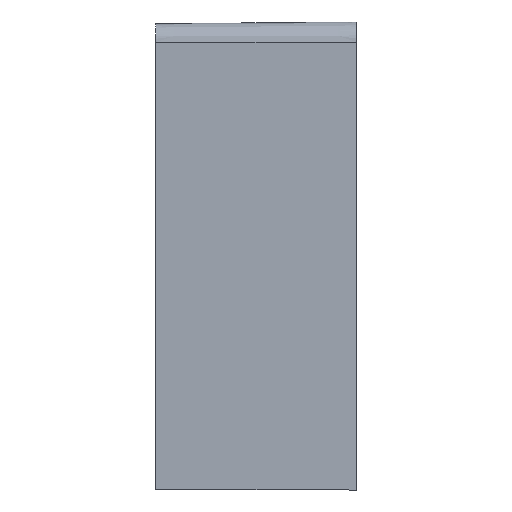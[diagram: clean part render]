
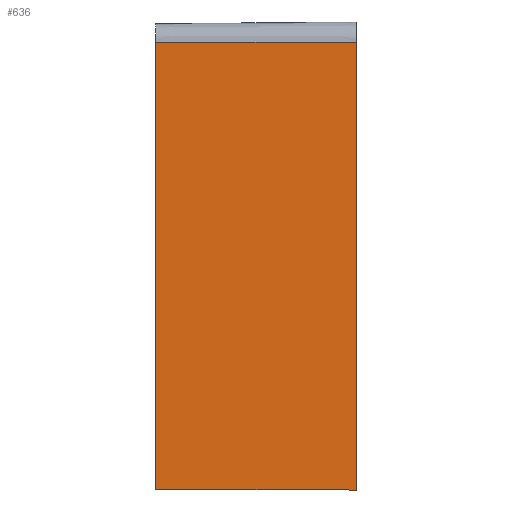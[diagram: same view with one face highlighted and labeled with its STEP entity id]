
A CAD part, left-side view. The second image highlights one B-rep face of the part: STEP entity #636.
In plain terms, the highlighted planar face has unit normal (-1, 0.009, 0).
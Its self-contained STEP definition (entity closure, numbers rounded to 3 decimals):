
#16 = VECTOR ( 'NONE', #761, 1000. ) ;
#21 = LINE ( 'NONE', #764, #16 ) ;
#88 = LINE ( 'NONE', #730, #122 ) ;
#90 = ORIENTED_EDGE ( 'NONE', *, *, #346, .T. ) ;
#122 = VECTOR ( 'NONE', #677, 1000. ) ;
#145 = ORIENTED_EDGE ( 'NONE', *, *, #643, .F. ) ;
#157 = ORIENTED_EDGE ( 'NONE', *, *, #398, .F. ) ;
#200 = VECTOR ( 'NONE', #611, 1000. ) ;
#201 = LINE ( 'NONE', #466, #200 ) ;
#207 = ORIENTED_EDGE ( 'NONE', *, *, #651, .F. ) ;
#261 = VECTOR ( 'NONE', #427, 1000. ) ;
#265 = LINE ( 'NONE', #478, #261 ) ;
#282 = FACE_OUTER_BOUND ( 'NONE', #292, .T. ) ;
#292 = EDGE_LOOP ( 'NONE', ( #90, #145, #207, #157 ) ) ;
#342 = AXIS2_PLACEMENT_3D ( 'NONE', #537, #469, #599 ) ;
#346 = EDGE_CURVE ( 'NONE', #801, #719, #88, .T. ) ;
#398 = EDGE_CURVE ( 'NONE', #801, #685, #21, .T. ) ;
#427 = DIRECTION ( 'NONE',  ( -0.009, -1., 0. ) ) ;
#466 = CARTESIAN_POINT ( 'NONE',  ( -7.238, 30., 67. ) ) ;
#469 = DIRECTION ( 'NONE',  ( -1., 0.009, 0. ) ) ;
#478 = CARTESIAN_POINT ( 'NONE',  ( -7.5, 0., 67. ) ) ;
#509 = CARTESIAN_POINT ( 'NONE',  ( -7.238, 30., 67. ) ) ;
#524 = PLANE ( 'NONE',  #342 ) ;
#537 = CARTESIAN_POINT ( 'NONE',  ( -7.5, 0., 0. ) ) ;
#594 = CARTESIAN_POINT ( 'NONE',  ( -7.238, 30., 0. ) ) ;
#599 = DIRECTION ( 'NONE',  ( -0.009, -1., 0. ) ) ;
#610 = CARTESIAN_POINT ( 'NONE',  ( -7.5, 0., 67. ) ) ;
#611 = DIRECTION ( 'NONE',  ( 0., 0., 1. ) ) ;
#614 = CARTESIAN_POINT ( 'NONE',  ( -7.5, 0., 0. ) ) ;
#636 = ADVANCED_FACE ( 'NONE', ( #282 ), #524, .T. ) ;
#643 = EDGE_CURVE ( 'NONE', #686, #719, #265, .T. ) ;
#651 = EDGE_CURVE ( 'NONE', #685, #686, #201, .T. ) ;
#677 = DIRECTION ( 'NONE',  ( 0., 0., 1. ) ) ;
#685 = VERTEX_POINT ( 'NONE', #594 ) ;
#686 = VERTEX_POINT ( 'NONE', #509 ) ;
#719 = VERTEX_POINT ( 'NONE', #610 ) ;
#730 = CARTESIAN_POINT ( 'NONE',  ( -7.5, 0., 0. ) ) ;
#761 = DIRECTION ( 'NONE',  ( 0.009, 1., 0. ) ) ;
#764 = CARTESIAN_POINT ( 'NONE',  ( -7.502, -0.261, 0. ) ) ;
#801 = VERTEX_POINT ( 'NONE', #614 ) ;
